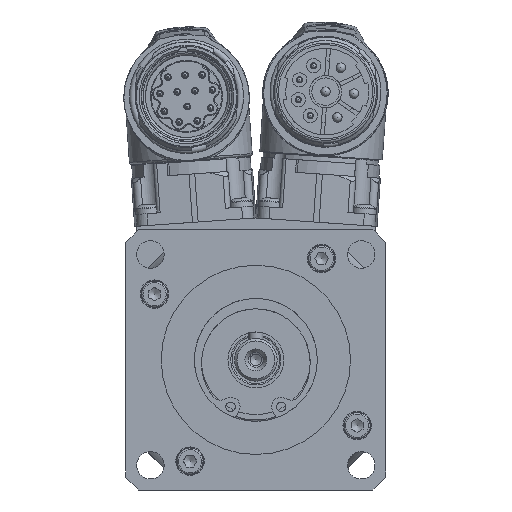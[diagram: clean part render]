
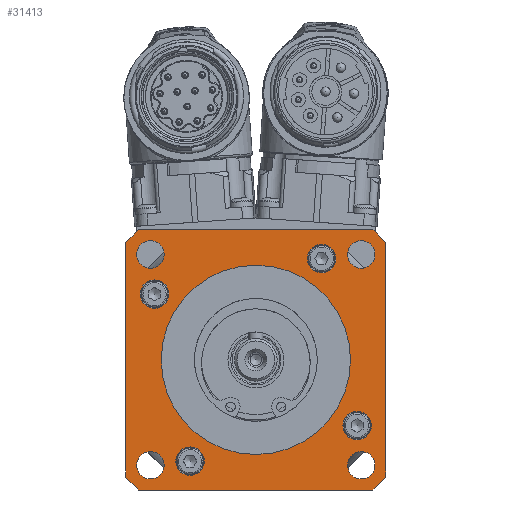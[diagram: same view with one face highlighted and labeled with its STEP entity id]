
A CAD part, left-side view. The second image highlights one B-rep face of the part: STEP entity #31413.
In plain terms, the highlighted planar face has unit normal (-1, 0, 0).
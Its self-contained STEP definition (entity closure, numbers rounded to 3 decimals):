
#1415=FACE_BOUND('',#4014,.T.);
#1416=FACE_BOUND('',#4015,.T.);
#1417=FACE_BOUND('',#4016,.T.);
#1418=FACE_BOUND('',#4017,.T.);
#1419=FACE_BOUND('',#4018,.T.);
#1420=FACE_BOUND('',#4019,.T.);
#1421=FACE_BOUND('',#4020,.T.);
#1422=FACE_BOUND('',#4021,.T.);
#1423=FACE_BOUND('',#4022,.T.);
#1627=PLANE('',#33669);
#2185=FACE_OUTER_BOUND('',#4013,.T.);
#4013=EDGE_LOOP('',(#19586,#19587,#19588,#19589,#19590,#19591,#19592,#19593));
#4014=EDGE_LOOP('',(#19594));
#4015=EDGE_LOOP('',(#19595));
#4016=EDGE_LOOP('',(#19596));
#4017=EDGE_LOOP('',(#19597));
#4018=EDGE_LOOP('',(#19598));
#4019=EDGE_LOOP('',(#19599));
#4020=EDGE_LOOP('',(#19600));
#4021=EDGE_LOOP('',(#19601));
#4022=EDGE_LOOP('',(#19602,#19603));
#6242=CIRCLE('',#33614,37.);
#6243=CIRCLE('',#33616,37.);
#6244=CIRCLE('',#33620,2.9);
#6245=CIRCLE('',#33622,2.9);
#6246=CIRCLE('',#33624,2.9);
#6247=CIRCLE('',#33626,2.9);
#6249=CIRCLE('',#33630,3.);
#6255=CIRCLE('',#33639,3.);
#6261=CIRCLE('',#33648,3.);
#6267=CIRCLE('',#33657,3.);
#6272=CIRCLE('',#33664,37.);
#6273=CIRCLE('',#33667,37.);
#6274=CIRCLE('',#33670,20.);
#6275=CIRCLE('',#33671,20.);
#8297=LINE('',#47084,#9889);
#8299=LINE('',#47087,#9891);
#8321=LINE('',#47186,#9913);
#8324=LINE('',#47193,#9916);
#9889=VECTOR('',#37706,10.);
#9891=VECTOR('',#37710,10.);
#9913=VECTOR('',#37826,10.);
#9916=VECTOR('',#37835,10.);
#11559=VERTEX_POINT('',#47071);
#11560=VERTEX_POINT('',#47072);
#11561=VERTEX_POINT('',#47077);
#11562=VERTEX_POINT('',#47078);
#11563=VERTEX_POINT('',#47083);
#11564=VERTEX_POINT('',#47089);
#11565=VERTEX_POINT('',#47093);
#11566=VERTEX_POINT('',#47097);
#11567=VERTEX_POINT('',#47101);
#11569=VERTEX_POINT('',#47109);
#11575=VERTEX_POINT('',#47128);
#11581=VERTEX_POINT('',#47147);
#11587=VERTEX_POINT('',#47166);
#11592=VERTEX_POINT('',#47181);
#11593=VERTEX_POINT('',#47185);
#11594=VERTEX_POINT('',#47189);
#11595=VERTEX_POINT('',#47195);
#11596=VERTEX_POINT('',#47196);
#14644=EDGE_CURVE('',#11559,#11560,#6242,.T.);
#14647=EDGE_CURVE('',#11561,#11562,#6243,.T.);
#14650=EDGE_CURVE('',#11563,#11561,#8297,.T.);
#14652=EDGE_CURVE('',#11562,#11559,#8299,.T.);
#14653=EDGE_CURVE('',#11564,#11564,#6244,.T.);
#14655=EDGE_CURVE('',#11565,#11565,#6245,.T.);
#14657=EDGE_CURVE('',#11566,#11566,#6246,.T.);
#14659=EDGE_CURVE('',#11567,#11567,#6247,.T.);
#14663=EDGE_CURVE('',#11569,#11569,#6249,.T.);
#14673=EDGE_CURVE('',#11575,#11575,#6255,.T.);
#14683=EDGE_CURVE('',#11581,#11581,#6261,.T.);
#14693=EDGE_CURVE('',#11587,#11587,#6267,.T.);
#14701=EDGE_CURVE('',#11592,#11563,#6272,.T.);
#14703=EDGE_CURVE('',#11593,#11592,#8321,.T.);
#14705=EDGE_CURVE('',#11594,#11593,#6273,.T.);
#14707=EDGE_CURVE('',#11560,#11594,#8324,.T.);
#14708=EDGE_CURVE('',#11595,#11596,#6274,.T.);
#14709=EDGE_CURVE('',#11596,#11595,#6275,.T.);
#19586=ORIENTED_EDGE('',*,*,#14650,.F.);
#19587=ORIENTED_EDGE('',*,*,#14701,.F.);
#19588=ORIENTED_EDGE('',*,*,#14703,.F.);
#19589=ORIENTED_EDGE('',*,*,#14705,.F.);
#19590=ORIENTED_EDGE('',*,*,#14707,.F.);
#19591=ORIENTED_EDGE('',*,*,#14644,.F.);
#19592=ORIENTED_EDGE('',*,*,#14652,.F.);
#19593=ORIENTED_EDGE('',*,*,#14647,.F.);
#19594=ORIENTED_EDGE('',*,*,#14693,.F.);
#19595=ORIENTED_EDGE('',*,*,#14683,.F.);
#19596=ORIENTED_EDGE('',*,*,#14673,.F.);
#19597=ORIENTED_EDGE('',*,*,#14663,.F.);
#19598=ORIENTED_EDGE('',*,*,#14659,.F.);
#19599=ORIENTED_EDGE('',*,*,#14657,.F.);
#19600=ORIENTED_EDGE('',*,*,#14655,.F.);
#19601=ORIENTED_EDGE('',*,*,#14653,.F.);
#19602=ORIENTED_EDGE('',*,*,#14708,.F.);
#19603=ORIENTED_EDGE('',*,*,#14709,.F.);
#31413=ADVANCED_FACE('',(#2185,#1415,#1416,#1417,#1418,#1419,#1420,#1421,
#1422,#1423),#1627,.F.);
#33614=AXIS2_PLACEMENT_3D('',#47073,#37694,#37695);
#33616=AXIS2_PLACEMENT_3D('',#47079,#37700,#37701);
#33620=AXIS2_PLACEMENT_3D('',#47090,#37713,#37714);
#33622=AXIS2_PLACEMENT_3D('',#47094,#37718,#37719);
#33624=AXIS2_PLACEMENT_3D('',#47098,#37723,#37724);
#33626=AXIS2_PLACEMENT_3D('',#47102,#37728,#37729);
#33630=AXIS2_PLACEMENT_3D('',#47110,#37738,#37739);
#33639=AXIS2_PLACEMENT_3D('',#47129,#37760,#37761);
#33648=AXIS2_PLACEMENT_3D('',#47148,#37782,#37783);
#33657=AXIS2_PLACEMENT_3D('',#47167,#37804,#37805);
#33664=AXIS2_PLACEMENT_3D('',#47182,#37821,#37822);
#33667=AXIS2_PLACEMENT_3D('',#47190,#37830,#37831);
#33669=AXIS2_PLACEMENT_3D('',#47194,#37836,#37837);
#33670=AXIS2_PLACEMENT_3D('',#47197,#37838,#37839);
#33671=AXIS2_PLACEMENT_3D('',#47198,#37840,#37841);
#37694=DIRECTION('center_axis',(1.,0.,0.));
#37695=DIRECTION('ref_axis',(0.,0.,
1.));
#37700=DIRECTION('center_axis',(1.,0.,0.));
#37701=DIRECTION('ref_axis',(0.,0.,
1.));
#37706=DIRECTION('',(0.,-1.,0.));
#37710=DIRECTION('',(0.,0.,-1.));
#37713=DIRECTION('center_axis',(-1.,0.,0.));
#37714=DIRECTION('ref_axis',(0.,-1.,0.));
#37718=DIRECTION('center_axis',(-1.,0.,0.));
#37719=DIRECTION('ref_axis',(0.,0.,
-1.));
#37723=DIRECTION('center_axis',(-1.,0.,0.));
#37724=DIRECTION('ref_axis',(0.,1.,0.));
#37728=DIRECTION('center_axis',(-1.,0.,0.));
#37729=DIRECTION('ref_axis',(0.,0.,
1.));
#37738=DIRECTION('center_axis',(-1.,0.,0.));
#37739=DIRECTION('ref_axis',(0.,-1.,0.));
#37760=DIRECTION('center_axis',(-1.,0.,0.));
#37761=DIRECTION('ref_axis',(0.,0.,
-1.));
#37782=DIRECTION('center_axis',(-1.,0.,0.));
#37783=DIRECTION('ref_axis',(0.,1.,0.));
#37804=DIRECTION('center_axis',(-1.,0.,0.));
#37805=DIRECTION('ref_axis',(0.,0.,
1.));
#37821=DIRECTION('center_axis',(1.,0.,0.));
#37822=DIRECTION('ref_axis',(0.,0.,
1.));
#37826=DIRECTION('',(0.,0.,1.));
#37830=DIRECTION('center_axis',(1.,0.,0.));
#37831=DIRECTION('ref_axis',(0.,0.,
1.));
#37835=DIRECTION('',(0.,1.,0.));
#37836=DIRECTION('center_axis',(1.,0.,0.));
#37837=DIRECTION('ref_axis',(0.,0.,
-1.));
#37838=DIRECTION('center_axis',(-1.,0.,0.));
#37839=DIRECTION('ref_axis',(0.,0.,
1.));
#37840=DIRECTION('center_axis',(-1.,0.,0.));
#37841=DIRECTION('ref_axis',(0.,0.,
1.));
#47071=CARTESIAN_POINT('',(-24.75,-27.5,-24.754));
#47072=CARTESIAN_POINT('',(-24.75,-24.754,-27.5));
#47073=CARTESIAN_POINT('Origin',(-24.75,0.,0.));
#47077=CARTESIAN_POINT('',(-24.75,-24.754,27.5));
#47078=CARTESIAN_POINT('',(-24.75,-27.5,24.754));
#47079=CARTESIAN_POINT('Origin',(-24.75,0.,0.));
#47083=CARTESIAN_POINT('',(-24.75,24.754,27.5));
#47084=CARTESIAN_POINT('',(-24.75,13.75,27.5));
#47087=CARTESIAN_POINT('',(-24.75,-27.5,38.704));
#47089=CARTESIAN_POINT('',(-24.75,25.174,22.274));
#47090=CARTESIAN_POINT('Origin',(-24.75,22.274,22.274));
#47093=CARTESIAN_POINT('',(-24.75,-22.274,25.174));
#47094=CARTESIAN_POINT('Origin',(-24.75,-22.274,22.274));
#47097=CARTESIAN_POINT('',(-24.75,-25.174,-22.274));
#47098=CARTESIAN_POINT('Origin',(-24.75,-22.274,-22.274));
#47101=CARTESIAN_POINT('',(-24.75,22.274,-25.174));
#47102=CARTESIAN_POINT('Origin',(-24.75,22.274,-22.274));
#47109=CARTESIAN_POINT('',(-24.75,-10.9,21.4));
#47110=CARTESIAN_POINT('Origin',(-24.75,-13.9,21.4));
#47128=CARTESIAN_POINT('',(-24.75,-21.4,-10.9));
#47129=CARTESIAN_POINT('Origin',(-24.75,-21.4,-13.9));
#47147=CARTESIAN_POINT('',(-24.75,10.9,-21.4));
#47148=CARTESIAN_POINT('Origin',(-24.75,13.9,-21.4));
#47166=CARTESIAN_POINT('',(-24.75,21.4,10.9));
#47167=CARTESIAN_POINT('Origin',(-24.75,21.4,13.9));
#47181=CARTESIAN_POINT('',(-24.75,27.5,24.754));
#47182=CARTESIAN_POINT('Origin',(-24.75,0.,0.));
#47185=CARTESIAN_POINT('',(-24.75,27.5,-24.754));
#47186=CARTESIAN_POINT('',(-24.75,27.5,11.204));
#47189=CARTESIAN_POINT('',(-24.75,24.754,-27.5));
#47190=CARTESIAN_POINT('Origin',(-24.75,0.,0.));
#47193=CARTESIAN_POINT('',(-24.75,-13.75,-27.5));
#47194=CARTESIAN_POINT('Origin',(-24.75,0.,49.909));
#47195=CARTESIAN_POINT('',(-24.75,0.,20.));
#47196=CARTESIAN_POINT('',(-24.75,0.,-20.));
#47197=CARTESIAN_POINT('Origin',(-24.75,0.,0.));
#47198=CARTESIAN_POINT('Origin',(-24.75,0.,0.));
